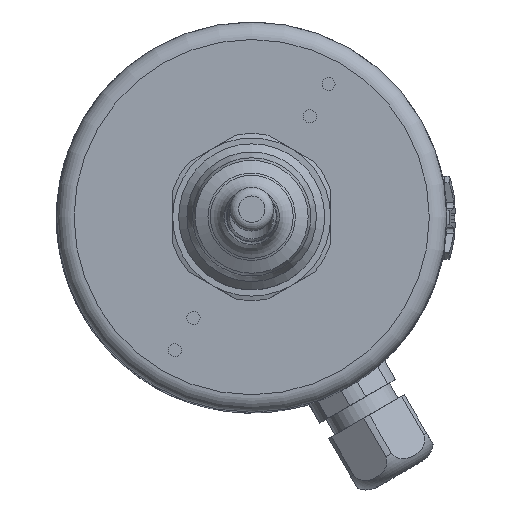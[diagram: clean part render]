
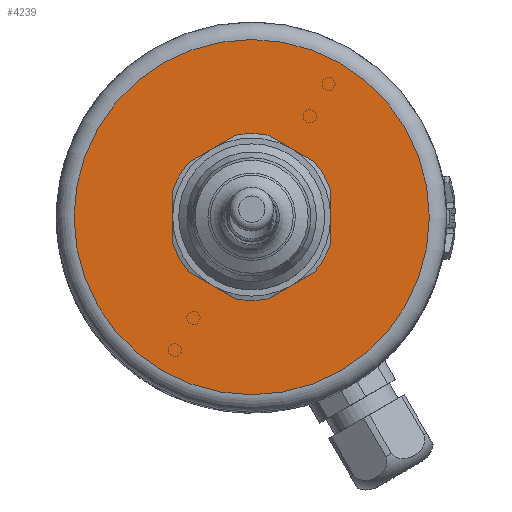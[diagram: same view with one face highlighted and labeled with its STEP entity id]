
A CAD part, top view. The second image highlights one B-rep face of the part: STEP entity #4239.
In plain terms, the highlighted planar face has unit normal (0, 0, 1).
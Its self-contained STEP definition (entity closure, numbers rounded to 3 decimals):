
#198=LINE('',#6308,#334);
#199=LINE('',#6310,#335);
#200=LINE('',#6312,#336);
#201=LINE('',#6314,#337);
#202=LINE('',#6316,#338);
#203=LINE('',#6318,#339);
#334=VECTOR('',#5267,1000.);
#335=VECTOR('',#5270,1000.);
#336=VECTOR('',#5273,1000.);
#337=VECTOR('',#5276,1000.);
#338=VECTOR('',#5279,1000.);
#339=VECTOR('',#5282,1000.);
#1058=ORIENTED_EDGE('',*,*,#1413,.F.);
#1059=ORIENTED_EDGE('',*,*,#1425,.T.);
#1060=ORIENTED_EDGE('',*,*,#1410,.F.);
#1061=ORIENTED_EDGE('',*,*,#1430,.T.);
#1062=ORIENTED_EDGE('',*,*,#1407,.F.);
#1063=ORIENTED_EDGE('',*,*,#1429,.T.);
#1064=ORIENTED_EDGE('',*,*,#1404,.F.);
#1065=ORIENTED_EDGE('',*,*,#1428,.T.);
#1066=ORIENTED_EDGE('',*,*,#1419,.F.);
#1067=ORIENTED_EDGE('',*,*,#1427,.T.);
#1068=ORIENTED_EDGE('',*,*,#1416,.F.);
#1069=ORIENTED_EDGE('',*,*,#1426,.T.);
#1070=ORIENTED_EDGE('',*,*,#1479,.T.);
#1404=EDGE_CURVE('',#1685,#1686,#1880,.F.);
#1407=EDGE_CURVE('',#1687,#1688,#1881,.T.);
#1410=EDGE_CURVE('',#1689,#1690,#1882,.F.);
#1413=EDGE_CURVE('',#1691,#1692,#1883,.F.);
#1416=EDGE_CURVE('',#1693,#1694,#1884,.F.);
#1419=EDGE_CURVE('',#1695,#1696,#1885,.F.);
#1425=EDGE_CURVE('',#1691,#1690,#198,.T.);
#1426=EDGE_CURVE('',#1693,#1692,#199,.T.);
#1427=EDGE_CURVE('',#1695,#1694,#200,.T.);
#1428=EDGE_CURVE('',#1685,#1696,#201,.T.);
#1429=EDGE_CURVE('',#1687,#1686,#202,.T.);
#1430=EDGE_CURVE('',#1689,#1688,#203,.T.);
#1479=EDGE_CURVE('',#1747,#1747,#1931,.F.);
#1685=VERTEX_POINT('',#6268);
#1686=VERTEX_POINT('',#6270);
#1687=VERTEX_POINT('',#6274);
#1688=VERTEX_POINT('',#6276);
#1689=VERTEX_POINT('',#6280);
#1690=VERTEX_POINT('',#6282);
#1691=VERTEX_POINT('',#6286);
#1692=VERTEX_POINT('',#6288);
#1693=VERTEX_POINT('',#6292);
#1694=VERTEX_POINT('',#6294);
#1695=VERTEX_POINT('',#6298);
#1696=VERTEX_POINT('',#6300);
#1747=VERTEX_POINT('',#6517);
#1880=CIRCLE('',#4500,19.);
#1881=CIRCLE('',#4502,19.);
#1882=CIRCLE('',#4504,19.);
#1883=CIRCLE('',#4506,19.);
#1884=CIRCLE('',#4508,19.);
#1885=CIRCLE('',#4510,19.);
#1931=CIRCLE('',#4608,40.45);
#2207=EDGE_LOOP('',(#1058,#1059,#1060,#1061,#1062,#1063,#1064,#1065,#1066,
#1067,#1068,#1069));
#2208=EDGE_LOOP('',(#1070));
#2521=FACE_BOUND('',#2207,.T.);
#2522=FACE_BOUND('',#2208,.T.);
#2652=PLANE('',#4612);
#4239=ADVANCED_FACE('',(#2521,#2522),#2652,.F.);
#4500=AXIS2_PLACEMENT_3D('',#6269,#5226,#5227);
#4502=AXIS2_PLACEMENT_3D('',#6275,#5232,#5233);
#4504=AXIS2_PLACEMENT_3D('',#6281,#5238,#5239);
#4506=AXIS2_PLACEMENT_3D('',#6287,#5244,#5245);
#4508=AXIS2_PLACEMENT_3D('',#6293,#5250,#5251);
#4510=AXIS2_PLACEMENT_3D('',#6299,#5256,#5257);
#4608=AXIS2_PLACEMENT_3D('',#6516,#5463,#5464);
#4612=AXIS2_PLACEMENT_3D('',#6523,#5471,#5472);
#5226=DIRECTION('',(0.,0.,-1.));
#5227=DIRECTION('',(-1.,0.,0.));
#5232=DIRECTION('',(0.,0.,1.));
#5233=DIRECTION('',(-0.866,-0.5,0.));
#5238=DIRECTION('',(0.,0.,-1.));
#5239=DIRECTION('',(-1.,0.,0.));
#5244=DIRECTION('',(0.,0.,-1.));
#5245=DIRECTION('',(-1.,0.,0.));
#5250=DIRECTION('',(0.,0.,-1.));
#5251=DIRECTION('',(-1.,0.,0.));
#5256=DIRECTION('',(0.,0.,-1.));
#5257=DIRECTION('',(-1.,0.,0.));
#5267=DIRECTION('',(0.,-1.,0.));
#5270=DIRECTION('',(0.866,-0.5,0.));
#5273=DIRECTION('',(0.866,0.5,0.));
#5276=DIRECTION('',(0.,1.,0.));
#5279=DIRECTION('',(-0.866,0.5,0.));
#5282=DIRECTION('',(-0.866,-0.5,0.));
#5463=DIRECTION('',(0.,0.,-1.));
#5464=DIRECTION('',(0.,-1.,0.));
#5471=DIRECTION('',(0.,0.,-1.));
#5472=DIRECTION('',(0.,-1.,0.));
#6268=CARTESIAN_POINT('',(-18.,-6.083,0.));
#6269=CARTESIAN_POINT('',(0.,0.,0.));
#6270=CARTESIAN_POINT('',(-14.272,-12.542,0.));
#6274=CARTESIAN_POINT('',(-3.726,-18.631,0.));
#6275=CARTESIAN_POINT('',(0.,0.,0.));
#6276=CARTESIAN_POINT('',(3.726,-18.631,0.));
#6280=CARTESIAN_POINT('',(14.272,-12.542,0.));
#6281=CARTESIAN_POINT('',(0.,0.,0.));
#6282=CARTESIAN_POINT('',(18.,-6.083,0.));
#6286=CARTESIAN_POINT('',(18.,6.083,0.));
#6287=CARTESIAN_POINT('',(0.,0.,0.));
#6288=CARTESIAN_POINT('',(14.272,12.542,0.));
#6292=CARTESIAN_POINT('',(3.726,18.631,0.));
#6293=CARTESIAN_POINT('',(0.,0.,0.));
#6294=CARTESIAN_POINT('',(-3.726,18.631,0.));
#6298=CARTESIAN_POINT('',(-14.272,12.542,0.));
#6299=CARTESIAN_POINT('',(0.,0.,0.));
#6300=CARTESIAN_POINT('',(-18.,6.083,0.));
#6308=CARTESIAN_POINT('',(18.,10.39,0.));
#6310=CARTESIAN_POINT('',(0.,20.782,0.));
#6312=CARTESIAN_POINT('',(-18.,10.39,0.));
#6314=CARTESIAN_POINT('',(-18.,-10.39,0.));
#6316=CARTESIAN_POINT('',(0.,-20.782,0.));
#6318=CARTESIAN_POINT('',(18.,-10.39,0.));
#6516=CARTESIAN_POINT('',(0.,0.,0.));
#6517=CARTESIAN_POINT('',(0.,-40.45,0.));
#6523=CARTESIAN_POINT('',(0.,0.,0.));
